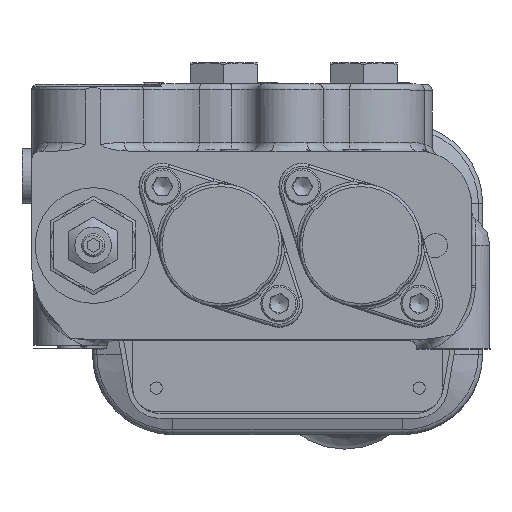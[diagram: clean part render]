
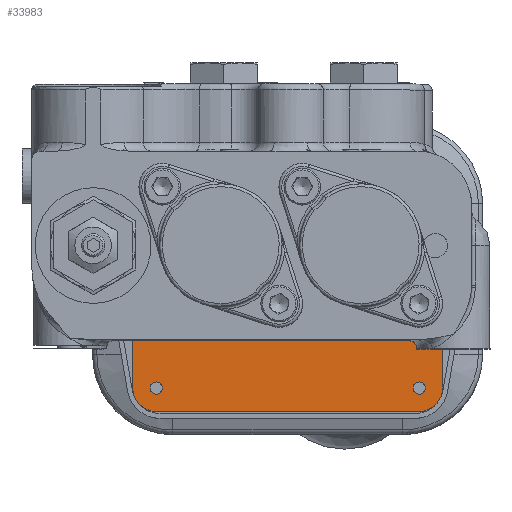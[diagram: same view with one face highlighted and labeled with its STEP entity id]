
A CAD part, top view. The second image highlights one B-rep face of the part: STEP entity #33983.
In plain terms, the highlighted planar face has unit normal (0, 0, 1).
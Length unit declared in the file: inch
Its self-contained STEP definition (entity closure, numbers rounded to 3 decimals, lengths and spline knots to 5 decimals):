
#7882=CARTESIAN_POINT('',(-0.903,-0.968,0.093));
#7883=VERTEX_POINT('',#7882);
#8116=CARTESIAN_POINT('',(2.277,-0.92303,0.093));
#8117=VERTEX_POINT('',#8116);
#8442=CARTESIAN_POINT('',(2.1143,-0.95908,0.093));
#8443=VERTEX_POINT('',#8442);
#8444=CARTESIAN_POINT('',(2.1143,-0.95908,0.093));
#8445=CARTESIAN_POINT('',(2.1614,-0.95058,0.093));
#8446=CARTESIAN_POINT('',(2.22169,-0.94216,0.093));
#8447=CARTESIAN_POINT('',(2.277,-0.92303,0.093));
#8448=B_SPLINE_CURVE_WITH_KNOTS('',3,(#8444,#8445,#8446,#8447),.UNSPECIFIED.,.F.,.U.,(4,4),(-1.82787,-1.32109),.UNSPECIFIED.);
#8449=EDGE_CURVE('',#8443,#8117,#8448,.T.);
#24157=CARTESIAN_POINT('',(2.0145,-0.968,0.093));
#24158=VERTEX_POINT('',#24157);
#24159=CARTESIAN_POINT('',(2.0145,-0.968,0.093));
#24160=DIRECTION('',(-1.0,0.0,0.0));
#24161=VECTOR('',#24160,2.9175);
#24162=LINE('',#24159,#24161);
#24163=EDGE_CURVE('',#24158,#7883,#24162,.T.);
#24181=CARTESIAN_POINT('',(2.0145,-0.4055,0.093));
#24182=DIRECTION('',(0.0,0.0,-1.0));
#24183=DIRECTION('',(0.707,-0.707,0.0));
#24184=AXIS2_PLACEMENT_3D('',#24181,#24182,#24183);
#24185=CIRCLE('',#24184,0.5625);
#24186=EDGE_CURVE('',#8443,#24158,#24185,.T.);
#28139=CARTESIAN_POINT('',(1.9745,-1.454,0.093));
#28140=VERTEX_POINT('',#28139);
#28141=CARTESIAN_POINT('',(2.037,-1.454,0.093));
#28142=DIRECTION('',(0.0,0.0,-1.0));
#28143=DIRECTION('',(1.0,0.0,0.0));
#28144=AXIS2_PLACEMENT_3D('',#28141,#28142,#28143);
#28145=CIRCLE('',#28144,0.0625);
#28146=EDGE_CURVE('',#28140,#28140,#28145,.T.);
#28167=CARTESIAN_POINT('',(-0.7255,-1.454,0.093));
#28168=VERTEX_POINT('',#28167);
#28169=CARTESIAN_POINT('',(-0.663,-1.454,0.093));
#28170=DIRECTION('',(0.0,0.0,-1.0));
#28171=DIRECTION('',(1.0,0.0,0.0));
#28172=AXIS2_PLACEMENT_3D('',#28169,#28170,#28171);
#28173=CIRCLE('',#28172,0.0625);
#28174=EDGE_CURVE('',#28168,#28168,#28173,.T.);
#28194=CARTESIAN_POINT('',(2.277,-1.454,0.093));
#28195=VERTEX_POINT('',#28194);
#28196=CARTESIAN_POINT('',(2.277,-1.454,0.093));
#28197=DIRECTION('',(0.0,1.0,0.0));
#28198=VECTOR('',#28197,0.53097);
#28199=LINE('',#28196,#28198);
#28200=EDGE_CURVE('',#28195,#8117,#28199,.T.);
#28226=CARTESIAN_POINT('',(2.037,-1.694,0.093));
#28227=VERTEX_POINT('',#28226);
#28228=CARTESIAN_POINT('',(2.037,-1.454,0.093));
#28229=DIRECTION('',(0.0,0.0,1.0));
#28230=DIRECTION('',(-1.0,0.0,0.0));
#28231=AXIS2_PLACEMENT_3D('',#28228,#28229,#28230);
#28232=CIRCLE('',#28231,0.24);
#28233=EDGE_CURVE('',#28227,#28195,#28232,.T.);
#28394=CARTESIAN_POINT('',(-0.663,-1.694,0.093));
#28395=VERTEX_POINT('',#28394);
#28402=CARTESIAN_POINT('',(-0.903,-1.454,0.093));
#28403=VERTEX_POINT('',#28402);
#28404=CARTESIAN_POINT('',(-0.663,-1.454,0.093));
#28405=DIRECTION('',(0.0,0.0,1.0));
#28406=DIRECTION('',(0.0,1.0,0.0));
#28407=AXIS2_PLACEMENT_3D('',#28404,#28405,#28406);
#28408=CIRCLE('',#28407,0.24);
#28409=EDGE_CURVE('',#28403,#28395,#28408,.T.);
#28432=CARTESIAN_POINT('',(-0.663,-1.694,0.093));
#28433=DIRECTION('',(1.0,0.0,0.0));
#28434=VECTOR('',#28433,2.7);
#28435=LINE('',#28432,#28434);
#28436=EDGE_CURVE('',#28395,#28227,#28435,.T.);
#28454=CARTESIAN_POINT('',(-0.903,-0.968,0.093));
#28455=DIRECTION('',(0.0,-1.0,0.0));
#28456=VECTOR('',#28455,0.486);
#28457=LINE('',#28454,#28456);
#28458=EDGE_CURVE('',#7883,#28403,#28457,.T.);
#33962=CARTESIAN_POINT('',(0.687,-0.427,0.093));
#33963=DIRECTION('',(0.0,0.0,-1.0));
#33964=DIRECTION('',(-1.0,0.0,0.0));
#33965=AXIS2_PLACEMENT_3D('',#33962,#33963,#33964);
#33966=PLANE('',#33965);
#33967=ORIENTED_EDGE('',*,*,#8449,.F.);
#33968=ORIENTED_EDGE('',*,*,#24186,.T.);
#33969=ORIENTED_EDGE('',*,*,#24163,.T.);
#33970=ORIENTED_EDGE('',*,*,#28458,.T.);
#33971=ORIENTED_EDGE('',*,*,#28409,.T.);
#33972=ORIENTED_EDGE('',*,*,#28436,.T.);
#33973=ORIENTED_EDGE('',*,*,#28233,.T.);
#33974=ORIENTED_EDGE('',*,*,#28200,.T.);
#33975=EDGE_LOOP('',(#33967,#33968,#33969,#33970,#33971,#33972,#33973,#33974));
#33976=FACE_OUTER_BOUND('',#33975,.T.);
#33977=ORIENTED_EDGE('',*,*,#28146,.T.);
#33978=EDGE_LOOP('',(#33977));
#33979=FACE_BOUND('',#33978,.T.);
#33980=ORIENTED_EDGE('',*,*,#28174,.T.);
#33981=EDGE_LOOP('',(#33980));
#33982=FACE_BOUND('',#33981,.T.);
#33983=ADVANCED_FACE('',(#33976,#33979,#33982),#33966,.F.);
